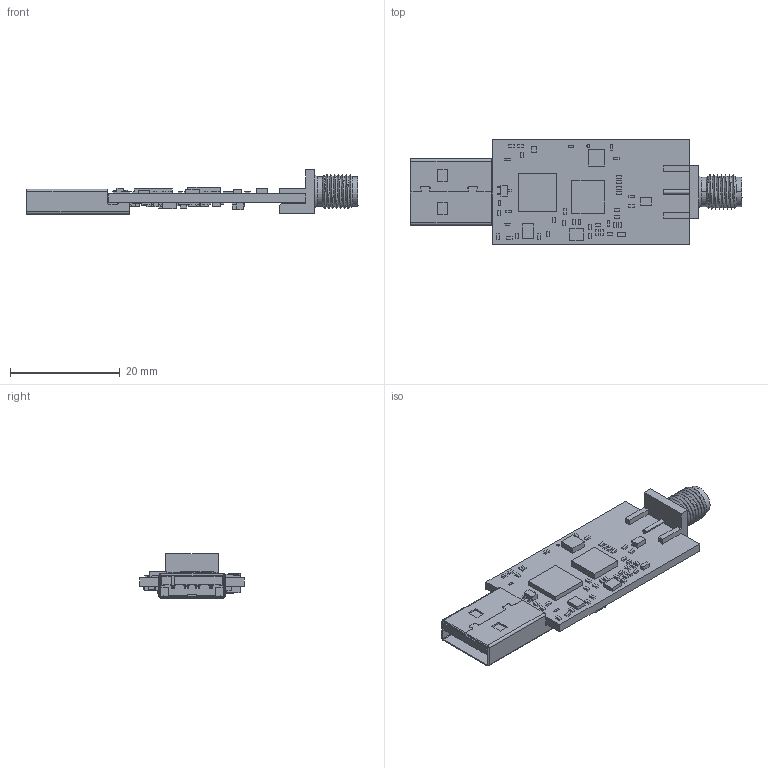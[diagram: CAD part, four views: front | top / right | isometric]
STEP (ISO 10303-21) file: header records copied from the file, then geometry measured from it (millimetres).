
FILE_DESCRIPTION(('Open CASCADE Model'),'2;1');
FILE_NAME('Open CASCADE Shape Model','2016-03-25T14:14:07',('Author'),( 'Open CASCADE'),'Open CASCADE STEP processor 6.8','Open CASCADE 6.8' ,'Unknown');
FILE_SCHEMA(('AUTOMOTIVE_DESIGN { 1 0 10303 214 1 1 1 1 }'));
Length unit declared in the file: millimetre
Products named in the file (152): PCB; Board; R24; 522875616; Extruded; U6; 522874336; C59; 522875456; R23; 522875776; R18; Q1; 522872896; 522873056; 522873216; 522873376; C26; C24; R10; L3; C27; R14; C25; 522875936; C52; 522876096; R7; J1; 480372200; Open CASCADE STEP translator 6.8 1.17.1.1; Open CASCADE STEP translator 6.8 1.17.1.2; C58; C20; 522875296; Q3; 522873536; 522873696; C57; R4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
Assembly tree (236 placements, depth 4):
  PCB
    Board
    R24
      522875616
        Extruded
    U6
      522874336
        Extruded
    C59
      522875456
        Extruded
    R23
      522875776
        Extruded
    R18
      522875616
        Extruded
    Q1
      522872896
        Extruded
      522873056
        Extruded
      522873216
        Extruded
      522873376
        Extruded
    C26
      522875776
        Extruded
    C24
      522875616
        Extruded
    R10
      522875616
        Extruded
    L3
      522875776
        Extruded
    C27
      522875616
        Extruded
    R14
      522875776
        Extruded
    C25
      522875936
        Extruded
    C52
      522876096
        Extruded
    R7
      522875616
        Extruded
    J1
      480372200
        Open CASCADE STEP translator 6.8 1.17.1.1
        Open CASCADE STEP translator 6.8 1.17.1.2
    C58
      522875936
        Extruded
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Bounding box: 60.38 x 19 x 8.04 mm (x, y, z)
Volume: 2228.7 mm3; surface area: 4533.9 mm2
Topology: 115 solids, 115 shells, 1018 faces, 2330 edges, 1571 vertices
Faces by surface type: plane 912, cylinder 82, cone 14, bspline 10
Full cylindrical faces by diameter (mm): 0.559 x1
Entity records: 53854 total; most frequent: CARTESIAN_POINT 25031, DIRECTION 4922, LINE 3052, VECTOR 3052, ORIENTED_EDGE 2552, PCURVE 2552, DEFINITIONAL_REPRESENTATION 2552, EDGE_CURVE 1276
